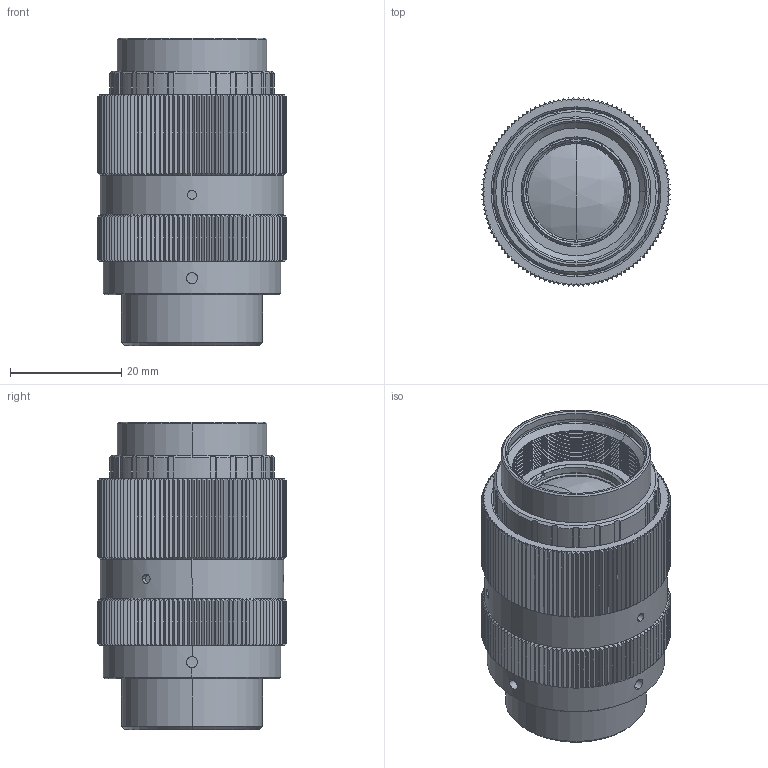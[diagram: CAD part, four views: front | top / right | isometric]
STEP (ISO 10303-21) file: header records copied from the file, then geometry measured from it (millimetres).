
FILE_DESCRIPTION (( 'STEP AP203' ), '1' );
FILE_NAME ('LC76C-1F_営業用3D^営業用3D.STEP', '2021-04-06T08:07:19', ( '' ), ( '' ), 'SwSTEP 2.0', 'SolidWorks 2019', '' );
FILE_SCHEMA (( 'CONFIG_CONTROL_DESIGN' ));
Length unit declared in the file: millimetre
Products named in the file (1): LC76C-1F_営業用3D^営業用3D
Bounding box: 33.99 x 33.99 x 55.4 mm (x, y, z)
Volume: 35510.2 mm3; surface area: 12714 mm2
Topology: 1 solids, 1 shells, 1037 faces, 2915 edges, 1901 vertices
Faces by surface type: plane 572, cone 372, cylinder 89, sphere 4
Entity records: 34637 total; most frequent: CARTESIAN_POINT 9620, ORIENTED_EDGE 5830, DIRECTION 4370, EDGE_CURVE 2915, VERTEX_POINT 1901, AXIS2_PLACEMENT_3D 1555, VECTOR 1260, LINE 1260
